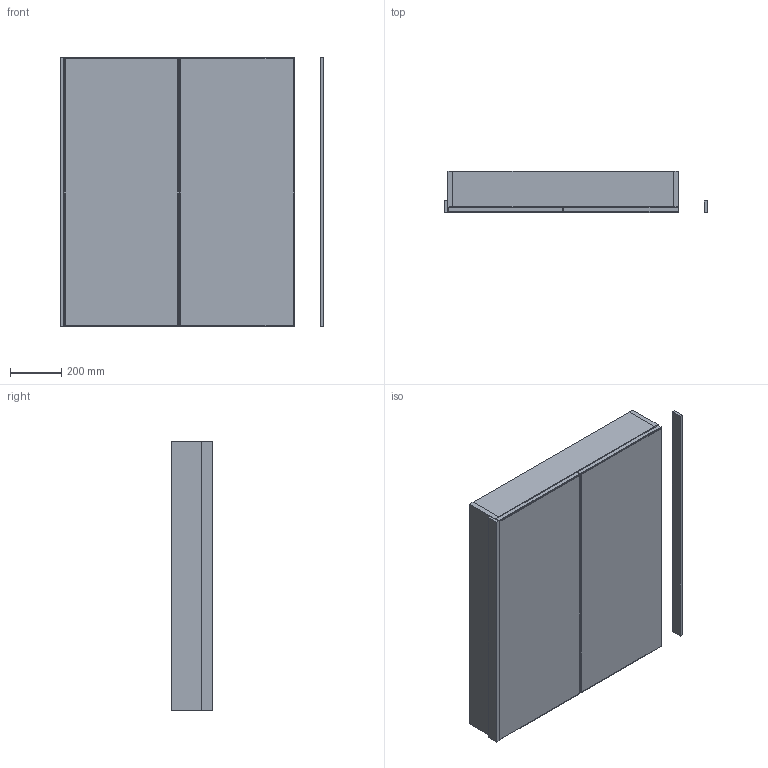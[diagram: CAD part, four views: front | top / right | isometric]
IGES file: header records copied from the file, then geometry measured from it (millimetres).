
Start section: Data from Parasolid IGES Translator 19.0.9, Copyright(c) 2006 Siemens PL M Software. All Rights Reserved.
Global section: file name: noorth-mirror-H 105 D 4,5-16 W 90_9140.igs; native system: By Siemens PLM Incorporated; preprocessor: XPlus GENERIC/IGES 19.0.9; author: Noname; organization: Noname; date: 20200519.111824; units: metre
Bounding box: 1023.82 x 162 x 1050 mm (x, y, z)
Volume: 34164269.3 mm3; surface area: 7824444.8 mm2
Topology: 15 solids, 15 shells, 194 faces, 372 edges, 208 vertices
Faces by surface type: plane 194
